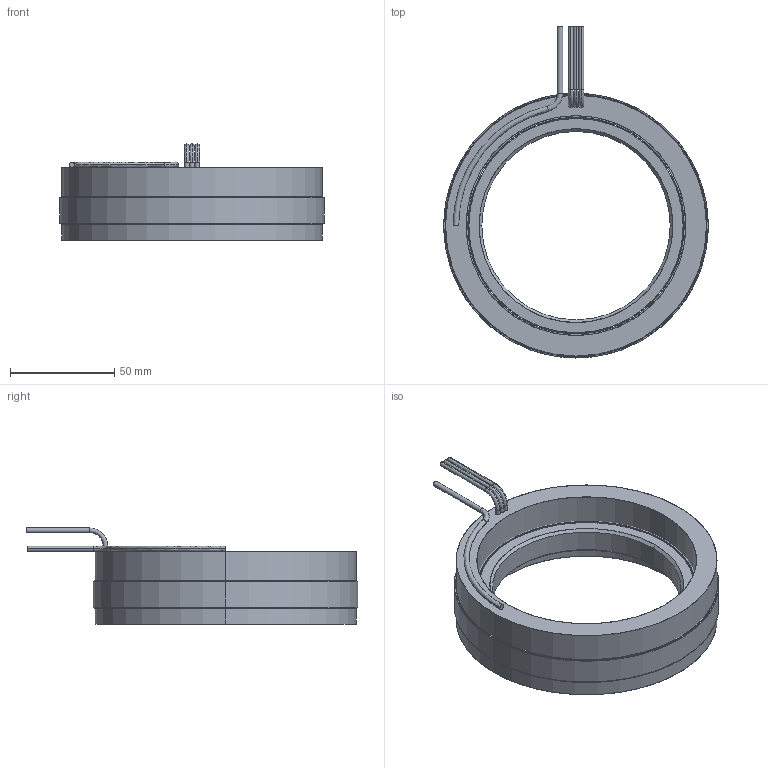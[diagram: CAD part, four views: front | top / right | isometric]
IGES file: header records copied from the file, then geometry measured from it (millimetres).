
Start section: SolidWorks IGES file using analytic representation for surfaces
Global section: file name: \\fs01.aveox.local\user documents\eng\My Documents\6100396-XX STATOR AND ROTOR SET, UT-5000-32P3, SENSORLESS\6100396-01.IGS; native system: SolidWorks 2016; preprocessor: SolidWorks 2016; author: eng; date: 201215.100735; units: inch
Bounding box: 127 x 159.26 x 46.1 mm (x, y, z)
Surface area: 95877.1 mm2 (no closed solid volume)
Topology: 0 solids, 0 shells, 75 faces, 2236 edges, 2236 vertices
Faces by surface type: revolution 46, bspline 29
